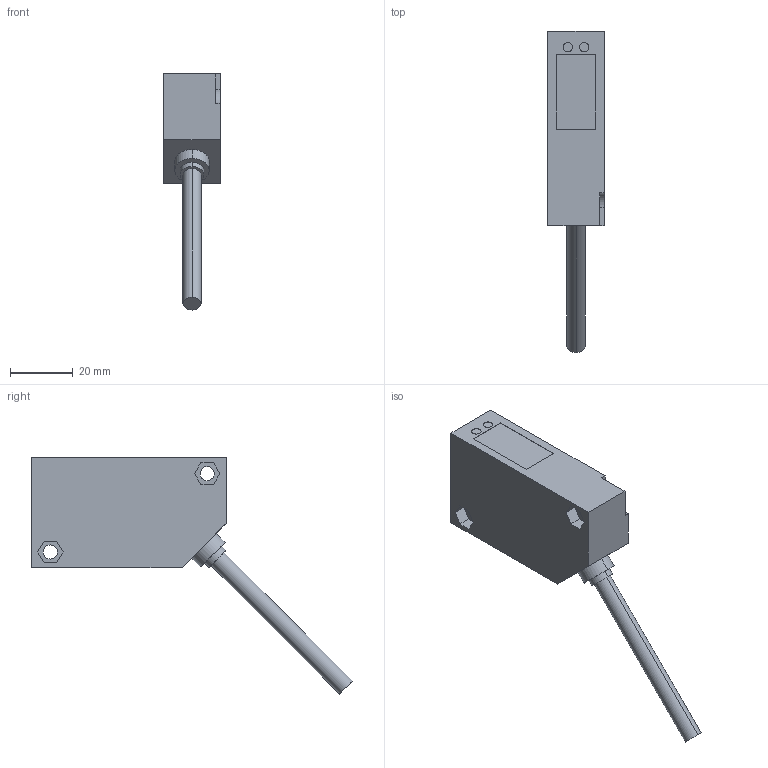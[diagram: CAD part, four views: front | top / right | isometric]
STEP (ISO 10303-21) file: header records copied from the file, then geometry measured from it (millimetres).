
FILE_DESCRIPTION (( 'STEP AP203' ), '1' );
FILE_NAME ('NX5-PRVM5A.STEP', '2005-09-08T02:12:37', ( '' ), ( '' ), 'SwSTEP 2.0', 'SolidWorks 2004073', '' );
FILE_SCHEMA (( 'CONFIG_CONTROL_DESIGN' ));
Length unit declared in the file: millimetre
Products named in the file (1): NX5-PRVM5A
Bounding box: 18 x 102.31 x 75.31 mm (x, y, z)
Volume: 38031.4 mm3; surface area: 9301.2 mm2
Topology: 1 solids, 1 shells, 75 faces, 183 edges, 122 vertices
Faces by surface type: plane 57, cylinder 18
Entity records: 2278 total; most frequent: CARTESIAN_POINT 381, DIRECTION 371, ORIENTED_EDGE 366, EDGE_CURVE 183, VECTOR 147, LINE 147, VERTEX_POINT 122, AXIS2_PLACEMENT_3D 112
